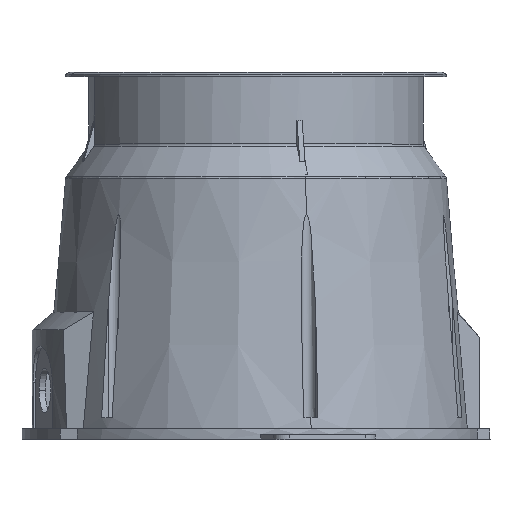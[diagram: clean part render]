
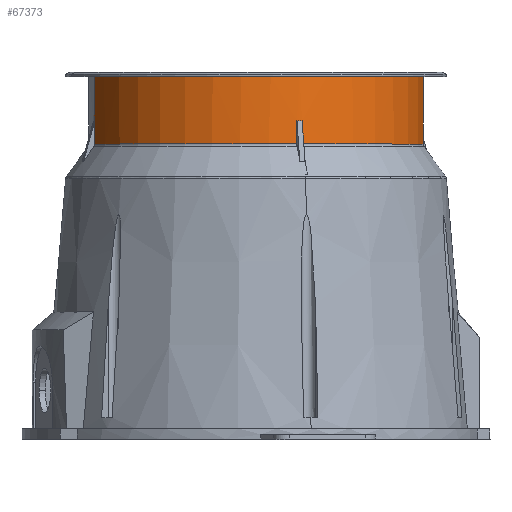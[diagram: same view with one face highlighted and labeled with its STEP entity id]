
A CAD part, top view. The second image highlights one B-rep face of the part: STEP entity #67373.
In plain terms, the highlighted cylindrical face has radius 79 mm (diameter 158 mm), a partial arc.
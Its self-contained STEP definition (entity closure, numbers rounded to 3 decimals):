
#58945=CARTESIAN_POINT('',(0.,32.5,0.));
#58946=DIRECTION('',(0.,-1.,0.));
#58947=DIRECTION('',(1.,0.,0.));
#58948=AXIS2_PLACEMENT_3D('',#58945,#58946,#58947);
#58976=DIRECTION('',(0.,-1.,0.));
#58977=VECTOR('',#58976,21.);
#58978=CARTESIAN_POINT('',(-79.,32.5,0.));
#58979=LINE('',#58978,#58977);
#59043=CARTESIAN_POINT('',(0.,11.5,0.));
#59044=DIRECTION('',(0.,1.,0.));
#59045=DIRECTION('',(-0.016,0.,1.));
#59046=AXIS2_PLACEMENT_3D('',#59043,#59044,#59045);
#59065=DIRECTION('',(0.,1.,0.));
#59066=VECTOR('',#59065,10.845);
#59067=CARTESIAN_POINT('',(-78.99,0.655,1.25));
#59068=LINE('',#59067,#59066);
#59069=DIRECTION('',(0.,-1.,0.));
#59070=VECTOR('',#59069,21.);
#59071=CARTESIAN_POINT('',(79.,32.5,0.));
#59072=LINE('',#59071,#59070);
#59073=DIRECTION('',(0.,-1.,0.));
#59074=VECTOR('',#59073,10.845);
#59075=CARTESIAN_POINT('',(78.99,11.5,1.25));
#59076=LINE('',#59075,#59074);
#59077=DIRECTION('',(0.,1.,0.));
#59078=VECTOR('',#59077,10.845);
#59079=CARTESIAN_POINT('',(1.25,0.655,78.99));
#59080=LINE('',#59079,#59078);
#59081=DIRECTION('',(0.,-1.,0.));
#59082=VECTOR('',#59081,10.845);
#59083=CARTESIAN_POINT('',(-1.25,11.5,78.99));
#59084=LINE('',#59083,#59082);
#59085=CARTESIAN_POINT('',(-78.99,0.655,1.25));
#59097=CARTESIAN_POINT('',(0.,11.5,0.));
#59098=DIRECTION('',(0.,1.,0.));
#59099=DIRECTION('',(-1.,0.,0.));
#59100=AXIS2_PLACEMENT_3D('',#59097,#59098,#59099);
#59102=CARTESIAN_POINT('',(-78.99,11.5,1.25));
#59114=CARTESIAN_POINT('',(0.,0.655,0.));
#59115=DIRECTION('',(0.,1.,0.));
#59116=DIRECTION('',(-1.,0.,0.016));
#59117=AXIS2_PLACEMENT_3D('',#59114,#59115,#59116);
#59136=CARTESIAN_POINT('',(0.,11.5,0.));
#59137=DIRECTION('',(0.,1.,0.));
#59138=DIRECTION('',(1.,0.,0.016));
#59139=AXIS2_PLACEMENT_3D('',#59136,#59137,#59138);
#59254=CARTESIAN_POINT('',(0.,0.655,0.));
#59255=DIRECTION('',(0.,1.,0.));
#59256=DIRECTION('',(0.016,0.,1.));
#59257=AXIS2_PLACEMENT_3D('',#59254,#59255,#59256);
#59259=CARTESIAN_POINT('',(1.25,0.655,78.99));
#65715=CARTESIAN_POINT('',(-79.,32.5,0.));
#65716=CARTESIAN_POINT('',(79.,32.5,0.));
#65717=VERTEX_POINT('',#65715);
#65718=VERTEX_POINT('',#65716);
#65739=CARTESIAN_POINT('',(79.,11.5,0.));
#65740=VERTEX_POINT('',#65739);
#65741=CARTESIAN_POINT('',(-79.,11.5,0.));
#65742=VERTEX_POINT('',#65741);
#65777=CARTESIAN_POINT('',(-1.25,11.5,78.99));
#65778=VERTEX_POINT('',#65777);
#65779=CARTESIAN_POINT('',(-1.25,0.655,78.99));
#65780=VERTEX_POINT('',#65779);
#65784=CARTESIAN_POINT('',(78.99,11.5,1.25));
#65785=VERTEX_POINT('',#65784);
#65786=CARTESIAN_POINT('',(1.25,11.5,78.99));
#65787=VERTEX_POINT('',#65786);
#65789=VERTEX_POINT('',#59085);
#65791=CARTESIAN_POINT('',(78.99,0.655,1.25));
#65793=VERTEX_POINT('',#65791);
#65796=VERTEX_POINT('',#59259);
#65799=VERTEX_POINT('',#59102);
#67347=CARTESIAN_POINT('',(0.,0.,0.));
#67348=DIRECTION('',(0.,1.,0.));
#67349=DIRECTION('',(1.,0.,0.));
#67350=AXIS2_PLACEMENT_3D('',#67347,#67348,#67349);
#67351=CYLINDRICAL_SURFACE('',#67350,79.);
#67353=ORIENTED_EDGE('',*,*,#67352,.T.);
#67355=ORIENTED_EDGE('',*,*,#67354,.F.);
#67356=ORIENTED_EDGE('',*,*,#67250,.F.);
#67357=ORIENTED_EDGE('',*,*,#67215,.F.);
#67358=ORIENTED_EDGE('',*,*,#67247,.T.);
#67360=ORIENTED_EDGE('',*,*,#67359,.F.);
#67362=ORIENTED_EDGE('',*,*,#67361,.T.);
#67364=ORIENTED_EDGE('',*,*,#67363,.F.);
#67366=ORIENTED_EDGE('',*,*,#67365,.T.);
#67367=ORIENTED_EDGE('',*,*,#67337,.F.);
#67368=ORIENTED_EDGE('',*,*,#67327,.T.);
#67370=ORIENTED_EDGE('',*,*,#67369,.F.);
#67371=EDGE_LOOP('',(#67353,#67355,#67356,#67357,#67358,#67360,#67362,#67364,
#67366,#67367,#67368,#67370));
#67372=FACE_OUTER_BOUND('',#67371,.F.);
#67373=ADVANCED_FACE('',(#67372),#67351,.T.);
#58949=CIRCLE('',#58948,79.);
#59047=CIRCLE('',#59046,79.);
#59101=CIRCLE('',#59100,79.);
#59118=CIRCLE('',#59117,79.);
#59140=CIRCLE('',#59139,79.);
#59258=CIRCLE('',#59257,79.);
#67215=EDGE_CURVE('',#65718,#65717,#58949,.T.);
#67247=EDGE_CURVE('',#65718,#65740,#59072,.T.);
#67250=EDGE_CURVE('',#65717,#65742,#58979,.T.);
#67327=EDGE_CURVE('',#65778,#65780,#59084,.T.);
#67337=EDGE_CURVE('',#65778,#65787,#59047,.T.);
#67352=EDGE_CURVE('',#65789,#65799,#59068,.T.);
#67354=EDGE_CURVE('',#65742,#65799,#59101,.T.);
#67359=EDGE_CURVE('',#65785,#65740,#59140,.T.);
#67361=EDGE_CURVE('',#65785,#65793,#59076,.T.);
#67363=EDGE_CURVE('',#65796,#65793,#59258,.T.);
#67365=EDGE_CURVE('',#65796,#65787,#59080,.T.);
#67369=EDGE_CURVE('',#65789,#65780,#59118,.T.);
